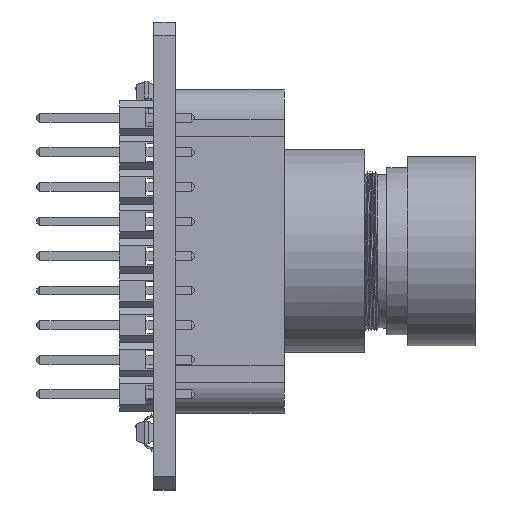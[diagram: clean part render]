
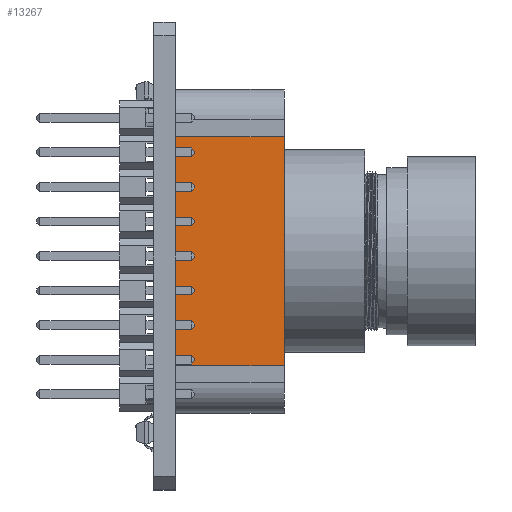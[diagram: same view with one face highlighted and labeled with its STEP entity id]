
A CAD part, front view. The second image highlights one B-rep face of the part: STEP entity #13267.
In plain terms, the highlighted planar face has unit normal (0, -1, 0) as drawn and (1, 0, 0) by its records, which use the part's own axes.
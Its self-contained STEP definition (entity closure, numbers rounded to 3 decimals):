
#730=PLANE('',#14313);
#1375=FACE_OUTER_BOUND('',#2139,.T.);
#2139=EDGE_LOOP('',(#9563,#9564,#9565,#9566));
#3090=LINE('',#18936,#4658);
#3098=LINE('',#18963,#4666);
#3099=LINE('',#18964,#4667);
#3100=LINE('',#18965,#4668);
#4658=VECTOR('',#15367,10.);
#4666=VECTOR('',#15391,10.);
#4667=VECTOR('',#15392,10.);
#4668=VECTOR('',#15393,10.);
#6412=VERTEX_POINT('',#18933);
#6413=VERTEX_POINT('',#18935);
#6423=VERTEX_POINT('',#18961);
#6424=VERTEX_POINT('',#18962);
#7620=EDGE_CURVE('',#6412,#6413,#3090,.T.);
#7633=EDGE_CURVE('',#6423,#6424,#3098,.T.);
#7634=EDGE_CURVE('',#6424,#6413,#3099,.T.);
#7635=EDGE_CURVE('',#6423,#6412,#3100,.T.);
#9563=ORIENTED_EDGE('',*,*,#7633,.T.);
#9564=ORIENTED_EDGE('',*,*,#7634,.T.);
#9565=ORIENTED_EDGE('',*,*,#7620,.F.);
#9566=ORIENTED_EDGE('',*,*,#7635,.F.);
#13267=ADVANCED_FACE('',(#1375),#730,.T.);
#14313=AXIS2_PLACEMENT_3D('',#18960,#15389,#15390);
#15367=DIRECTION('',(0.,0.,-1.));
#15389=DIRECTION('center_axis',(1.,0.,0.));
#15390=DIRECTION('ref_axis',(0.,0.,-1.));
#15391=DIRECTION('',(0.,0.,-1.));
#15392=DIRECTION('',(0.,1.,0.));
#15393=DIRECTION('',(0.,1.,0.));
#18933=CARTESIAN_POINT('',(8.4,8.,8.4));
#18935=CARTESIAN_POINT('',(8.4,8.,-8.4));
#18936=CARTESIAN_POINT('',(8.4,8.,8.4));
#18960=CARTESIAN_POINT('Origin',(8.4,0.,8.4));
#18961=CARTESIAN_POINT('',(8.4,0.,8.4));
#18962=CARTESIAN_POINT('',(8.4,0.,-8.4));
#18963=CARTESIAN_POINT('',(8.4,0.,8.4));
#18964=CARTESIAN_POINT('',(8.4,0.,-8.4));
#18965=CARTESIAN_POINT('',(8.4,0.,8.4));
